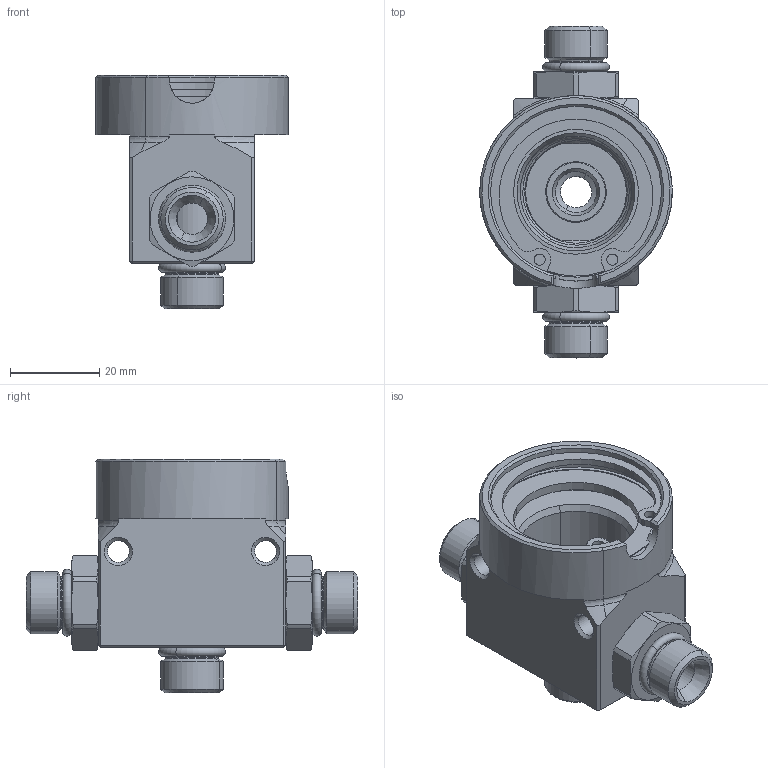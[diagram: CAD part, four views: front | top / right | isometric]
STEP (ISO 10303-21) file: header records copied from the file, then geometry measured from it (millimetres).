
FILE_DESCRIPTION(('CATIA V5 STEP Exchange','CAx-IF Rec.Pracs.--- Model Styling and Organization---1.2---2011-12-15'),'2;1');
FILE_NAME('Y:\Entwicklungsprojekte\Komponentenentwicklung\03_Hardware\16_Druckregler\FPR Adaptor light\03_Zeichnungen\CAD-Daten\F02U_V02_248_01_AGZ_Adapter_FPR-Inline_20150826.stp','2015-08-26T10:59:59+00:00',('none'),('none'),'CATIA Version 5-6 Release 2012 SP4 HF68','CATIA V5 STEP AP214','none');
FILE_SCHEMA(('AUTOMOTIVE_DESIGN { 1 0 10303 214 1 1 1 1 }'));
Length unit declared in the file: millimetre
Products named in the file (1): F02U_V02_248_01_ZUB_Adapter_FPR-Inline_AllCATPart
Bounding box: 43.2 x 74.4 x 52.4 mm (x, y, z)
Volume: 33934.7 mm3; surface area: 23667.7 mm2
Topology: 10 solids, 10 shells, 291 faces, 680 edges, 405 vertices
Faces by surface type: cylinder 103, cone 78, torus 58, plane 52
Entity records: 8138 total; most frequent: CARTESIAN_POINT 2124, ORIENTED_EDGE 1360, DIRECTION 925, EDGE_CURVE 680, AXIS2_PLACEMENT_3D 524, VERTEX_POINT 405, CIRCLE 347, EDGE_LOOP 317
